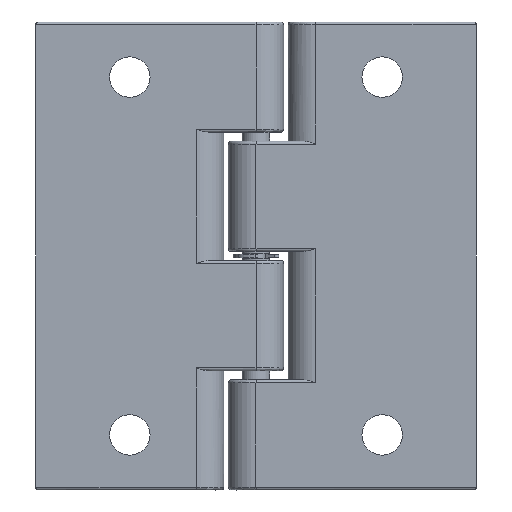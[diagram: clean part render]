
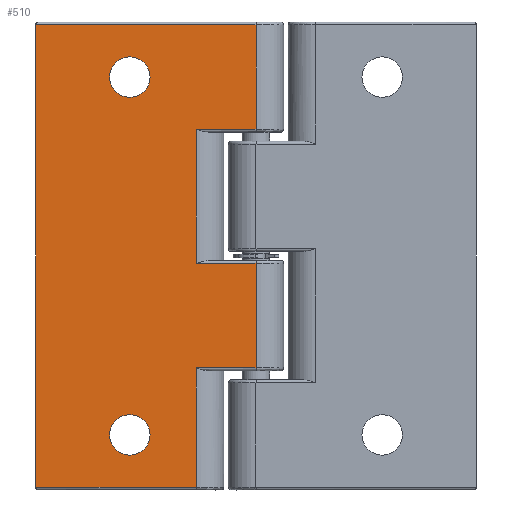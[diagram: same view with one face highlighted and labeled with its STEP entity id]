
A CAD part, front view. The second image highlights one B-rep face of the part: STEP entity #510.
In plain terms, the highlighted planar face has unit normal (0, -1, 0).
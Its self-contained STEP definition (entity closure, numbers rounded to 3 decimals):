
#19 = VERTEX_POINT ( 'NONE', #1082 ) ;
#20 = VERTEX_POINT ( 'NONE', #1074 ) ;
#71 = VERTEX_POINT ( 'NONE', #1162 ) ;
#91 = VERTEX_POINT ( 'NONE', #1208 ) ;
#104 = VERTEX_POINT ( 'NONE', #1204 ) ;
#177 = CIRCLE ( 'NONE', #375, 2.2 ) ;
#180 = EDGE_CURVE ( 'NONE', #71, #20, #1471, .T. ) ;
#187 = EDGE_CURVE ( 'NONE', #839, #104, #1356, .T. ) ;
#228 = VERTEX_POINT ( 'NONE', #1479 ) ;
#231 = EDGE_CURVE ( 'NONE', #236, #241, #177, .T. ) ;
#235 = EDGE_CURVE ( 'NONE', #243, #228, #1333, .T. ) ;
#236 = VERTEX_POINT ( 'NONE', #1248 ) ;
#241 = VERTEX_POINT ( 'NONE', #1593 ) ;
#243 = VERTEX_POINT ( 'NONE', #1571 ) ;
#315 = VERTEX_POINT ( 'NONE', #1713 ) ;
#322 = EDGE_CURVE ( 'NONE', #334, #315, #1921, .T. ) ;
#325 = EDGE_CURVE ( 'NONE', #315, #329, #1865, .T. ) ;
#329 = VERTEX_POINT ( 'NONE', #1831 ) ;
#331 = EDGE_CURVE ( 'NONE', #19, #334, #1861, .T. ) ;
#334 = VERTEX_POINT ( 'NONE', #1784 ) ;
#339 = EDGE_CURVE ( 'NONE', #20, #19, #1780, .T. ) ;
#347 = ORIENTED_EDGE ( 'NONE', *, *, #354, .T. ) ;
#348 = ORIENTED_EDGE ( 'NONE', *, *, #732, .F. ) ;
#349 = ORIENTED_EDGE ( 'NONE', *, *, #325, .F. ) ;
#351 = ORIENTED_EDGE ( 'NONE', *, *, #331, .F. ) ;
#352 = ORIENTED_EDGE ( 'NONE', *, *, #829, .F. ) ;
#353 = ORIENTED_EDGE ( 'NONE', *, *, #180, .F. ) ;
#354 = EDGE_CURVE ( 'NONE', #768, #329, #1876, .T. ) ;
#358 = ORIENTED_EDGE ( 'NONE', *, *, #322, .F. ) ;
#375 = AXIS2_PLACEMENT_3D ( 'NONE', #526, #525, #940 ) ;
#496 = ORIENTED_EDGE ( 'NONE', *, *, #339, .F. ) ;
#500 = EDGE_LOOP ( 'NONE', ( #501, #509 ) ) ;
#501 = ORIENTED_EDGE ( 'NONE', *, *, #231, .F. ) ;
#503 = ORIENTED_EDGE ( 'NONE', *, *, #746, .F. ) ;
#505 = ORIENTED_EDGE ( 'NONE', *, *, #1018, .F. ) ;
#508 = ORIENTED_EDGE ( 'NONE', *, *, #235, .F. ) ;
#509 = ORIENTED_EDGE ( 'NONE', *, *, #750, .F. ) ;
#510 = ADVANCED_FACE ( 'NONE', ( #1962, #2132, #2135 ), #2134, .F. ) ;
#511 = EDGE_LOOP ( 'NONE', ( #503, #519, #348, #347, #349, #358, #351, #496, #353, #352 ) ) ;
#512 = EDGE_LOOP ( 'NONE', ( #508, #505 ) ) ;
#519 = ORIENTED_EDGE ( 'NONE', *, *, #187, .F. ) ;
#525 = DIRECTION ( 'NONE',  ( 0., -1., 0. ) ) ;
#526 = CARTESIAN_POINT ( 'NONE',  ( -13.75, -3., 19.5 ) ) ;
#732 = EDGE_CURVE ( 'NONE', #768, #839, #3166, .T. ) ;
#746 = EDGE_CURVE ( 'NONE', #104, #91, #3151, .T. ) ;
#750 = EDGE_CURVE ( 'NONE', #241, #236, #3115, .T. ) ;
#768 = VERTEX_POINT ( 'NONE', #3095 ) ;
#829 = EDGE_CURVE ( 'NONE', #91, #71, #2344, .T. ) ;
#839 = VERTEX_POINT ( 'NONE', #2444 ) ;
#940 = DIRECTION ( 'NONE',  ( 0., 0., 1. ) ) ;
#1018 = EDGE_CURVE ( 'NONE', #228, #243, #2596, .T. ) ;
#1074 = CARTESIAN_POINT ( 'NONE',  ( 0., -3., 25.2 ) ) ;
#1082 = CARTESIAN_POINT ( 'NONE',  ( 0., -3., 13.8 ) ) ;
#1162 = CARTESIAN_POINT ( 'NONE',  ( -24., -3., 25.2 ) ) ;
#1204 = CARTESIAN_POINT ( 'NONE',  ( -6.5, -3., -25.2 ) ) ;
#1208 = CARTESIAN_POINT ( 'NONE',  ( -24., -3., -25.2 ) ) ;
#1248 = CARTESIAN_POINT ( 'NONE',  ( -13.75, -3., 21.7 ) ) ;
#1329 = DIRECTION ( 'NONE',  ( 0., 0., 1. ) ) ;
#1332 = CARTESIAN_POINT ( 'NONE',  ( -13.75, -3., -19.5 ) ) ;
#1333 = CIRCLE ( 'NONE', #1337, 2.2 ) ;
#1336 = DIRECTION ( 'NONE',  ( 0., -1., 0. ) ) ;
#1337 = AXIS2_PLACEMENT_3D ( 'NONE', #1332, #1336, #1329 ) ;
#1356 = LINE ( 'NONE', #1468, #1467 ) ;
#1426 = CARTESIAN_POINT ( 'NONE',  ( -12., -3., 25.2 ) ) ;
#1461 = DIRECTION ( 'NONE',  ( 0., 0., -1. ) ) ;
#1465 = DIRECTION ( 'NONE',  ( 1., 0., 0. ) ) ;
#1466 = VECTOR ( 'NONE', #1465, 1000. ) ;
#1467 = VECTOR ( 'NONE', #1461, 1000. ) ;
#1468 = CARTESIAN_POINT ( 'NONE',  ( -6.5, -3., 0. ) ) ;
#1471 = LINE ( 'NONE', #1426, #1466 ) ;
#1479 = CARTESIAN_POINT ( 'NONE',  ( -13.75, -3., -21.7 ) ) ;
#1571 = CARTESIAN_POINT ( 'NONE',  ( -13.75, -3., -17.3 ) ) ;
#1593 = CARTESIAN_POINT ( 'NONE',  ( -13.75, -3., 17.3 ) ) ;
#1709 = DIRECTION ( 'NONE',  ( 0., 0., -1. ) ) ;
#1710 = VECTOR ( 'NONE', #1709, 1000. ) ;
#1711 = CARTESIAN_POINT ( 'NONE',  ( -6.5, -3., 0. ) ) ;
#1713 = CARTESIAN_POINT ( 'NONE',  ( -6.5, -3., -0.8 ) ) ;
#1774 = VECTOR ( 'NONE', #1884, 1000. ) ;
#1775 = CARTESIAN_POINT ( 'NONE',  ( 0., -3., 0. ) ) ;
#1780 = LINE ( 'NONE', #1775, #1774 ) ;
#1781 = DIRECTION ( 'NONE',  ( -1., 0., 0. ) ) ;
#1784 = CARTESIAN_POINT ( 'NONE',  ( -6.5, -3., 13.8 ) ) ;
#1786 = VECTOR ( 'NONE', #1781, 1000. ) ;
#1799 = CARTESIAN_POINT ( 'NONE',  ( -12., -3., 13.8 ) ) ;
#1831 = CARTESIAN_POINT ( 'NONE',  ( 0., -3., -0.8 ) ) ;
#1861 = LINE ( 'NONE', #1799, #1786 ) ;
#1862 = DIRECTION ( 'NONE',  ( 1., 0., 0. ) ) ;
#1863 = VECTOR ( 'NONE', #1862, 1000. ) ;
#1864 = CARTESIAN_POINT ( 'NONE',  ( -12., -3., -0.8 ) ) ;
#1865 = LINE ( 'NONE', #1864, #1863 ) ;
#1869 = DIRECTION ( 'NONE',  ( 0., 0., 1. ) ) ;
#1875 = CARTESIAN_POINT ( 'NONE',  ( 0., -3., -6.5 ) ) ;
#1876 = LINE ( 'NONE', #1875, #1883 ) ;
#1883 = VECTOR ( 'NONE', #1869, 1000. ) ;
#1884 = DIRECTION ( 'NONE',  ( 0., 0., -1. ) ) ;
#1921 = LINE ( 'NONE', #1711, #1710 ) ;
#1947 = CARTESIAN_POINT ( 'NONE',  ( -24., -3., -25.2 ) ) ;
#1962 = FACE_BOUND ( 'NONE', #500, .T. ) ;
#1966 = AXIS2_PLACEMENT_3D ( 'NONE', #1947, #2131, #2124 ) ;
#2124 = DIRECTION ( 'NONE',  ( 0., 0., 1. ) ) ;
#2131 = DIRECTION ( 'NONE',  ( 0., 1., 0. ) ) ;
#2132 = FACE_BOUND ( 'NONE', #512, .T. ) ;
#2134 = PLANE ( 'NONE',  #1966 ) ;
#2135 = FACE_OUTER_BOUND ( 'NONE', #511, .T. ) ;
#2344 = LINE ( 'NONE', #2352, #2351 ) ;
#2350 = DIRECTION ( 'NONE',  ( 0., 0., 1. ) ) ;
#2351 = VECTOR ( 'NONE', #2350, 1000. ) ;
#2352 = CARTESIAN_POINT ( 'NONE',  ( -24., -3., 0. ) ) ;
#2444 = CARTESIAN_POINT ( 'NONE',  ( -6.5, -3., -12.2 ) ) ;
#2520 = DIRECTION ( 'NONE',  ( 0., 0., 1. ) ) ;
#2521 = DIRECTION ( 'NONE',  ( 0., -1., 0. ) ) ;
#2522 = CARTESIAN_POINT ( 'NONE',  ( -13.75, -3., -19.5 ) ) ;
#2523 = AXIS2_PLACEMENT_3D ( 'NONE', #2522, #2521, #2520 ) ;
#2596 = CIRCLE ( 'NONE', #2523, 2.2 ) ;
#3095 = CARTESIAN_POINT ( 'NONE',  ( 0., -3., -12.2 ) ) ;
#3114 = DIRECTION ( 'NONE',  ( 0., 0., 1. ) ) ;
#3115 = CIRCLE ( 'NONE', #3149, 2.2 ) ;
#3117 = DIRECTION ( 'NONE',  ( -1., 0., 0. ) ) ;
#3118 = VECTOR ( 'NONE', #3117, 1000. ) ;
#3143 = DIRECTION ( 'NONE',  ( 0., -1., 0. ) ) ;
#3144 = CARTESIAN_POINT ( 'NONE',  ( -13.75, -3., 19.5 ) ) ;
#3149 = AXIS2_PLACEMENT_3D ( 'NONE', #3144, #3143, #3114 ) ;
#3150 = CARTESIAN_POINT ( 'NONE',  ( -12., -3., -25.2 ) ) ;
#3151 = LINE ( 'NONE', #3150, #3118 ) ;
#3163 = DIRECTION ( 'NONE',  ( -1., 0., 0. ) ) ;
#3164 = VECTOR ( 'NONE', #3163, 1000. ) ;
#3166 = LINE ( 'NONE', #3168, #3164 ) ;
#3168 = CARTESIAN_POINT ( 'NONE',  ( -12., -3., -12.2 ) ) ;
